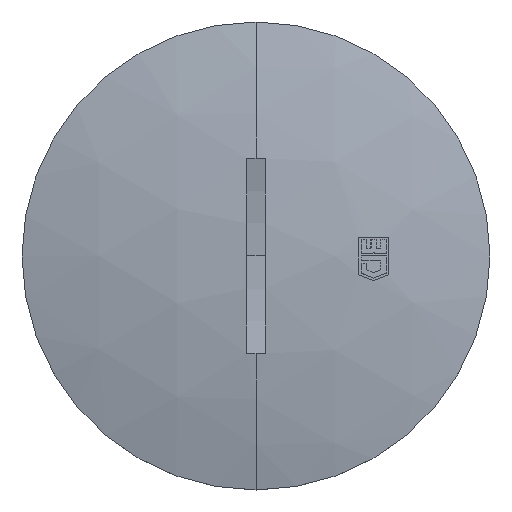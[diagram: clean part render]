
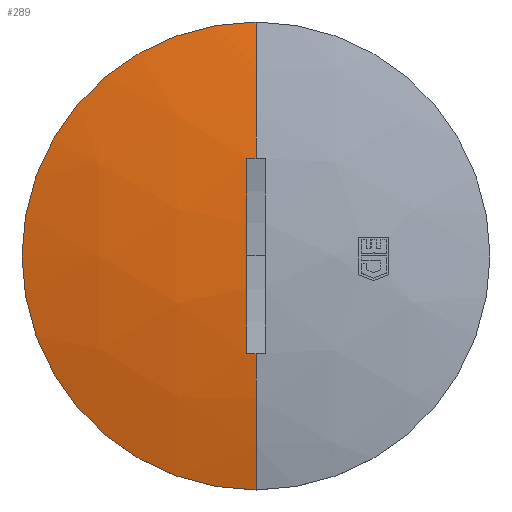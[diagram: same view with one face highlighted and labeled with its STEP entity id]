
A CAD part, top view. The second image highlights one B-rep face of the part: STEP entity #289.
In plain terms, the highlighted spherical face has radius 130 mm.
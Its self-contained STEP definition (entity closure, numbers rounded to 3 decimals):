
#272 = ORIENTED_EDGE ( 'NONE', *, *, #1749, .F. ) ;
#273 = ORIENTED_EDGE ( 'NONE', *, *, #274, .F. ) ;
#274 = EDGE_CURVE ( 'NONE', #288, #294, #1010, .T. ) ;
#275 = ORIENTED_EDGE ( 'NONE', *, *, #278, .F. ) ;
#276 = EDGE_CURVE ( 'NONE', #288, #425, #1062, .T. ) ;
#277 = ORIENTED_EDGE ( 'NONE', *, *, #450, .F. ) ;
#278 = EDGE_CURVE ( 'NONE', #294, #386, #1058, .T. ) ;
#279 = ORIENTED_EDGE ( 'NONE', *, *, #280, .T. ) ;
#280 = EDGE_CURVE ( 'NONE', #428, #389, #1053, .T. ) ;
#281 = ORIENTED_EDGE ( 'NONE', *, *, #276, .T. ) ;
#288 = VERTEX_POINT ( 'NONE', #1048 ) ;
#289 = ADVANCED_FACE ( 'NONE', ( #1042 ), #1040, .T. ) ;
#290 = EDGE_LOOP ( 'NONE', ( #275, #273, #281, #277, #279, #272 ) ) ;
#294 = VERTEX_POINT ( 'NONE', #1094 ) ;
#386 = VERTEX_POINT ( 'NONE', #1254 ) ;
#389 = VERTEX_POINT ( 'NONE', #1252 ) ;
#425 = VERTEX_POINT ( 'NONE', #1311 ) ;
#428 = VERTEX_POINT ( 'NONE', #1308 ) ;
#450 = EDGE_CURVE ( 'NONE', #428, #425, #1322, .T. ) ;
#1010 = B_SPLINE_CURVE_WITH_KNOTS ( 'NONE', 3,
 ( #1066, #1065, #1064, #1063 ),
 .UNSPECIFIED., .F., .F.,
 ( 4, 4 ),
 ( 0., 0.001 ),
 .UNSPECIFIED. ) ;
#1038 = CARTESIAN_POINT ( 'NONE',  ( 0., 0., -114. ) ) ;
#1039 = AXIS2_PLACEMENT_3D ( 'NONE', #1038, #1041, #1095 ) ;
#1040 = SPHERICAL_SURFACE ( 'NONE', #1039, 130. ) ;
#1041 = DIRECTION ( 'NONE',  ( 1., 0., 0. ) ) ;
#1042 = FACE_OUTER_BOUND ( 'NONE', #290, .T. ) ;
#1048 = CARTESIAN_POINT ( 'NONE',  ( -1.25, -13.328, 15.309 ) ) ;
#1049 = DIRECTION ( 'NONE',  ( 0., 0., 1. ) ) ;
#1050 = DIRECTION ( 'NONE',  ( -1., 0., 0. ) ) ;
#1051 = CARTESIAN_POINT ( 'NONE',  ( 0., 0., -114. ) ) ;
#1052 = AXIS2_PLACEMENT_3D ( 'NONE', #1051, #1050, #1049 ) ;
#1053 = CIRCLE ( 'NONE', #1052, 130. ) ;
#1054 = DIRECTION ( 'NONE',  ( 0., 1., 0. ) ) ;
#1055 = DIRECTION ( 'NONE',  ( 1., 0., 0. ) ) ;
#1056 = CARTESIAN_POINT ( 'NONE',  ( 0., 0., -114. ) ) ;
#1057 = AXIS2_PLACEMENT_3D ( 'NONE', #1056, #1055, #1054 ) ;
#1058 = CIRCLE ( 'NONE', #1057, 130. ) ;
#1059 = DIRECTION ( 'NONE',  ( 0., 0., -1. ) ) ;
#1060 = DIRECTION ( 'NONE',  ( -1., 0., 0. ) ) ;
#1061 = AXIS2_PLACEMENT_3D ( 'NONE', #1067, #1060, #1059 ) ;
#1062 = CIRCLE ( 'NONE', #1061, 129.994 ) ;
#1063 = CARTESIAN_POINT ( 'NONE',  ( 0., -13.344, 15.313 ) ) ;
#1064 = CARTESIAN_POINT ( 'NONE',  ( -0.417, -13.344, 15.313 ) ) ;
#1065 = CARTESIAN_POINT ( 'NONE',  ( -0.833, -13.338, 15.312 ) ) ;
#1066 = CARTESIAN_POINT ( 'NONE',  ( -1.25, -13.328, 15.309 ) ) ;
#1067 = CARTESIAN_POINT ( 'NONE',  ( -1.25, 0., -114. ) ) ;
#1094 = CARTESIAN_POINT ( 'NONE',  ( 0., -13.344, 15.313 ) ) ;
#1095 = DIRECTION ( 'NONE',  ( 0., 1., 0. ) ) ;
#1252 = CARTESIAN_POINT ( 'NONE',  ( 0., 32., 12. ) ) ;
#1254 = CARTESIAN_POINT ( 'NONE',  ( 0., -32., 12. ) ) ;
#1308 = CARTESIAN_POINT ( 'NONE',  ( 0., 13.344, 15.313 ) ) ;
#1311 = CARTESIAN_POINT ( 'NONE',  ( -1.25, 13.328, 15.309 ) ) ;
#1317 = CARTESIAN_POINT ( 'NONE',  ( -1.25, 13.328, 15.309 ) ) ;
#1318 = CARTESIAN_POINT ( 'NONE',  ( -0.833, 13.338, 15.312 ) ) ;
#1319 = CARTESIAN_POINT ( 'NONE',  ( -0.417, 13.344, 15.313 ) ) ;
#1320 = CARTESIAN_POINT ( 'NONE',  ( 0., 13.344, 15.313 ) ) ;
#1322 = B_SPLINE_CURVE_WITH_KNOTS ( 'NONE', 3,
 ( #1320, #1319, #1318, #1317 ),
 .UNSPECIFIED., .F., .F.,
 ( 4, 4 ),
 ( 0.001, 0.003 ),
 .UNSPECIFIED. ) ;
#1646 = DIRECTION ( 'NONE',  ( 0., 1., 0. ) ) ;
#1647 = DIRECTION ( 'NONE',  ( 0., 0., -1. ) ) ;
#1648 = CARTESIAN_POINT ( 'NONE',  ( 0., 0., 12. ) ) ;
#1649 = AXIS2_PLACEMENT_3D ( 'NONE', #1648, #1647, #1646 ) ;
#1650 = CIRCLE ( 'NONE', #1649, 32. ) ;
#1749 = EDGE_CURVE ( 'NONE', #386, #389, #1650, .T. ) ;
